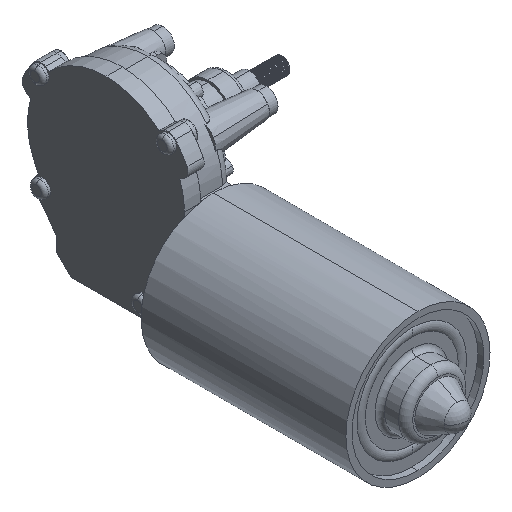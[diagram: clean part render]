
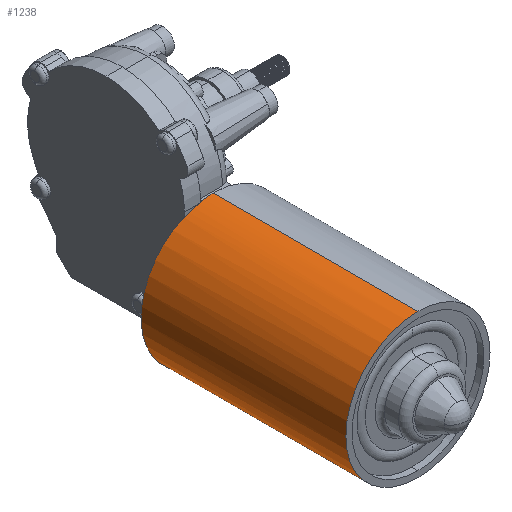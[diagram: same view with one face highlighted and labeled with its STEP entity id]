
A CAD part, isometric view. The second image highlights one B-rep face of the part: STEP entity #1238.
In plain terms, the highlighted cylindrical face has radius 30.6 mm (diameter 61.2 mm), a partial arc.
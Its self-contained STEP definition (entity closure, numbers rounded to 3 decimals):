
#486 = EDGE_CURVE ( 'NONE', #28388, #3595, #1915, .T. ) ;
#567 = ORIENTED_EDGE ( 'NONE', *, *, #29249, .T. ) ;
#594 = CIRCLE ( 'NONE', #25499, 30.6 ) ;
#709 = CARTESIAN_POINT ( 'NONE',  ( 0., 40.055, 30.6 ) ) ;
#1238 = ADVANCED_FACE ( 'NONE', ( #19061 ), #16735, .T. ) ;
#1546 = DIRECTION ( 'NONE',  ( 0., -1., 0. ) ) ;
#1915 = LINE ( 'NONE', #30140, #13589 ) ;
#2146 = CIRCLE ( 'NONE', #17553, 30.6 ) ;
#2864 = EDGE_CURVE ( 'NONE', #13692, #12498, #25457, .T. ) ;
#3089 = ORIENTED_EDGE ( 'NONE', *, *, #11059, .T. ) ;
#3455 = VERTEX_POINT ( 'NONE', #23534 ) ;
#3595 = VERTEX_POINT ( 'NONE', #21659 ) ;
#4804 = CARTESIAN_POINT ( 'NONE',  ( 0., 127.055, 30.6 ) ) ;
#5670 = AXIS2_PLACEMENT_3D ( 'NONE', #14249, #24367, #10009 ) ;
#6356 = CARTESIAN_POINT ( 'NONE',  ( 0., 127.055, 0. ) ) ;
#7200 = EDGE_CURVE ( 'NONE', #13692, #10283, #28914, .T. ) ;
#8446 = DIRECTION ( 'NONE',  ( 0., -1., 0. ) ) ;
#8698 = EDGE_LOOP ( 'NONE', ( #15581, #29014, #17528, #14230, #3089, #17463, #17034, #567, #28001 ) ) ;
#8739 = DIRECTION ( 'NONE',  ( 0., 0., -1. ) ) ;
#9472 = AXIS2_PLACEMENT_3D ( 'NONE', #18675, #1546, #20862 ) ;
#9818 = EDGE_CURVE ( 'NONE', #3595, #3455, #30563, .T. ) ;
#10009 = DIRECTION ( 'NONE',  ( 0., 0., -1. ) ) ;
#10201 = B_SPLINE_CURVE_WITH_KNOTS ( 'NONE', 3,
 ( #11926, #25826, #30673, #13816 ),
 .UNSPECIFIED., .F., .F.,
 ( 4, 4 ),
 ( 0.109, 0.109 ),
 .UNSPECIFIED. ) ;
#10283 = VERTEX_POINT ( 'NONE', #11607 ) ;
#10580 = VECTOR ( 'NONE', #8446, 1000. ) ;
#10839 = VERTEX_POINT ( 'NONE', #11692 ) ;
#11059 = EDGE_CURVE ( 'NONE', #14148, #28388, #594, .T. ) ;
#11074 = CARTESIAN_POINT ( 'NONE',  ( 0., 40.055, 0. ) ) ;
#11607 = CARTESIAN_POINT ( 'NONE',  ( -5.6, 127.055, 30.083 ) ) ;
#11692 = CARTESIAN_POINT ( 'NONE',  ( -5.6, 126.755, 30.083 ) ) ;
#11926 = CARTESIAN_POINT ( 'NONE',  ( -5.6, 126.755, 30.083 ) ) ;
#12082 = EDGE_CURVE ( 'NONE', #12498, #30117, #2146, .T. ) ;
#12352 = LINE ( 'NONE', #22028, #28428 ) ;
#12498 = VERTEX_POINT ( 'NONE', #709 ) ;
#12916 = CARTESIAN_POINT ( 'NONE',  ( -12.5, 126.755, 27.93 ) ) ;
#13589 = VECTOR ( 'NONE', #18103, 1000. ) ;
#13692 = VERTEX_POINT ( 'NONE', #4804 ) ;
#13816 = CARTESIAN_POINT ( 'NONE',  ( -6.03, 126.755, 30. ) ) ;
#14148 = VERTEX_POINT ( 'NONE', #17221 ) ;
#14230 = ORIENTED_EDGE ( 'NONE', *, *, #26532, .T. ) ;
#14249 = CARTESIAN_POINT ( 'NONE',  ( 0., 0., 0. ) ) ;
#15581 = ORIENTED_EDGE ( 'NONE', *, *, #2864, .F. ) ;
#16735 = CYLINDRICAL_SURFACE ( 'NONE', #5670, 30.6 ) ;
#17034 = ORIENTED_EDGE ( 'NONE', *, *, #9818, .T. ) ;
#17221 = CARTESIAN_POINT ( 'NONE',  ( -6.03, 126.755, 30. ) ) ;
#17463 = ORIENTED_EDGE ( 'NONE', *, *, #486, .T. ) ;
#17528 = ORIENTED_EDGE ( 'NONE', *, *, #24754, .F. ) ;
#17553 = AXIS2_PLACEMENT_3D ( 'NONE', #11074, #30276, #8739 ) ;
#18103 = DIRECTION ( 'NONE',  ( 0., 1., 0. ) ) ;
#18114 = CARTESIAN_POINT ( 'NONE',  ( 0., 0., 30.6 ) ) ;
#18675 = CARTESIAN_POINT ( 'NONE',  ( 0., 127.055, 0. ) ) ;
#19061 = FACE_OUTER_BOUND ( 'NONE', #8698, .T. ) ;
#20080 = DIRECTION ( 'NONE',  ( 0., -1., 0. ) ) ;
#20862 = DIRECTION ( 'NONE',  ( 0., 0., -1. ) ) ;
#21659 = CARTESIAN_POINT ( 'NONE',  ( -12.5, 127.055, 27.93 ) ) ;
#21877 = DIRECTION ( 'NONE',  ( 0., 1., 0. ) ) ;
#21887 = LINE ( 'NONE', #26584, #28610 ) ;
#22028 = CARTESIAN_POINT ( 'NONE',  ( -5.6, 0., 30.083 ) ) ;
#23534 = CARTESIAN_POINT ( 'NONE',  ( 0., 127.055, -30.6 ) ) ;
#23930 = DIRECTION ( 'NONE',  ( 0., -1., 0. ) ) ;
#24367 = DIRECTION ( 'NONE',  ( 0., -1., 0. ) ) ;
#24754 = EDGE_CURVE ( 'NONE', #10839, #10283, #12352, .T. ) ;
#25376 = DIRECTION ( 'NONE',  ( 0., 0., -1. ) ) ;
#25457 = LINE ( 'NONE', #18114, #10580 ) ;
#25499 = AXIS2_PLACEMENT_3D ( 'NONE', #25506, #20080, #29153 ) ;
#25506 = CARTESIAN_POINT ( 'NONE',  ( 0., 126.755, 0. ) ) ;
#25603 = AXIS2_PLACEMENT_3D ( 'NONE', #6356, #27879, #25376 ) ;
#25826 = CARTESIAN_POINT ( 'NONE',  ( -5.744, 126.755, 30.056 ) ) ;
#26532 = EDGE_CURVE ( 'NONE', #10839, #14148, #10201, .T. ) ;
#26584 = CARTESIAN_POINT ( 'NONE',  ( 0., 0., -30.6 ) ) ;
#27879 = DIRECTION ( 'NONE',  ( 0., -1., 0. ) ) ;
#28001 = ORIENTED_EDGE ( 'NONE', *, *, #12082, .F. ) ;
#28388 = VERTEX_POINT ( 'NONE', #12916 ) ;
#28428 = VECTOR ( 'NONE', #21877, 1000. ) ;
#28550 = CARTESIAN_POINT ( 'NONE',  ( 0., 40.055, -30.6 ) ) ;
#28610 = VECTOR ( 'NONE', #23930, 1000. ) ;
#28914 = CIRCLE ( 'NONE', #9472, 30.6 ) ;
#29014 = ORIENTED_EDGE ( 'NONE', *, *, #7200, .T. ) ;
#29153 = DIRECTION ( 'NONE',  ( 0., 0., 1. ) ) ;
#29249 = EDGE_CURVE ( 'NONE', #3455, #30117, #21887, .T. ) ;
#30117 = VERTEX_POINT ( 'NONE', #28550 ) ;
#30140 = CARTESIAN_POINT ( 'NONE',  ( -12.5, 0., 27.93 ) ) ;
#30276 = DIRECTION ( 'NONE',  ( 0., -1., 0. ) ) ;
#30563 = CIRCLE ( 'NONE', #25603, 30.6 ) ;
#30673 = CARTESIAN_POINT ( 'NONE',  ( -5.887, 126.755, 30.029 ) ) ;
